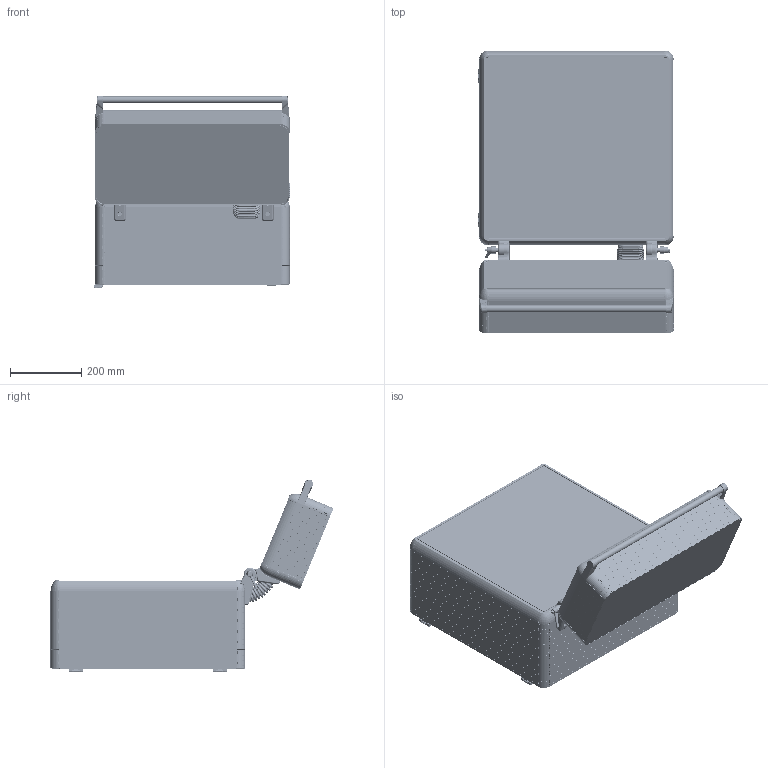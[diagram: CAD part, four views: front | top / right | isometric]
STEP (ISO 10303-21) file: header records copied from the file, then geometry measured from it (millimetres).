
FILE_DESCRIPTION (( 'STEP AP214' ), '1' );
FILE_NAME ('1590-1212.STEP', '2022-05-09T12:35:49', ( '' ), ( '' ), 'SwSTEP 2.0', 'SolidWorks 2022', '' );
FILE_SCHEMA (( 'AUTOMOTIVE_DESIGN' ));
Length unit declared in the file: millimetre
Products named in the file (35): HPECOX-090-001_495; ECO1500-0000; HPECO-002-02; HPECO-120-002; ECO1200-0100(SAÐ); 1590-0012; HPECO-001_325_525; x90 menteþeli 500X500; HPECO-120-150_195; HPECO-002-01; PLSECO-002; PLSECO-001; 1500-0012; ECO1200-0100(SOL); KLV.01.120.5020(500x200); ECO1200-0000; HPECO-002-03; HPECO-002-04; PLSECO-004; ARKA_KAPAK_500X500; PLSECO-003; HPECO-002-05; KLV_BAÐLANTI_SAÐ; KLV_BAÐLANTI_SOL; KLV.LVH.ARKA.5020(500x200); HPECO-120-001-295_495; PLSECO-006(K鰎黭); ECO90X; KLV.LVH2.00.5020(500x200); HPECO-150-001_495; 1590-1212; PLSECO-120-002; 500X500; PLSECO-120-001
Assembly tree (64 placements, depth 4):
  1590-1212
    1590-0012
      1500-0012
        500X500
        HPECO-150-001_495  x4
        ECO1500-0000  x4
      x90 menteþeli 500X500
        ARKA_KAPAK_500X500
        ECO90X  x4
        HPECOX-090-001_495  x4
    KLV.01.120.5020(500x200)
      KLV.LVH2.00.5020(500x200)
      HPECO-120-001-295_495
      ECO1200-0000  x2
        PLSECO-120-001
        PLSECO-120-002
        HPECO-120-002
        PLSECO-001
        PLSECO-004
      HPECO-120-150_195  x2
      ECO1200-0100(SAÐ)
        PLSECO-120-001
        PLSECO-120-002
        HPECO-120-002
        PLSECO-004  x2
        PLSECO-003
      HPECO-120-001-295_495
      ECO1200-0100(SOL)
        PLSECO-120-001
        PLSECO-120-002
        HPECO-120-002
        PLSECO-004  x2
        PLSECO-002
      KLV.LVH.ARKA.5020(500x200)
      HPECO-001_325_525
      KLV_BAÐLANTI_SAÐ
        HPECO-002-01
        HPECO-002-02
        HPECO-002-03
        HPECO-002-04
        HPECO-002-05
      PLSECO-006(K鰎黭)
      KLV_BAÐLANTI_SOL
        HPECO-002-03
        HPECO-002-01
        HPECO-002-02
        HPECO-002-04
        HPECO-002-05
Bounding box: 549.03 x 795.1 x 541.97 mm (x, y, z)
Volume: 8709317.2 mm3; surface area: 4908500.7 mm2
Topology: 114 solids, 164 shells, 28653 faces, 71762 edges, 42634 vertices
Faces by surface type: bspline 9112, plane 7913, cylinder 7146, torus 1784, cone 1692, sphere 1006
Entity records: 525176 total; most frequent: CARTESIAN_POINT 216134, ORIENTED_EDGE 57800, DIRECTION 45346, EDGE_CURVE 28900, AXIS2_PLACEMENT_3D 17428, VERTEX_POINT 17277, EDGE_LOOP 11923, FACE_OUTER_BOUND 11653
